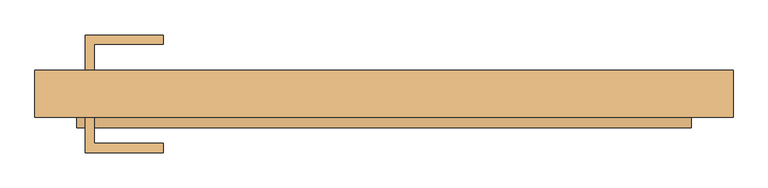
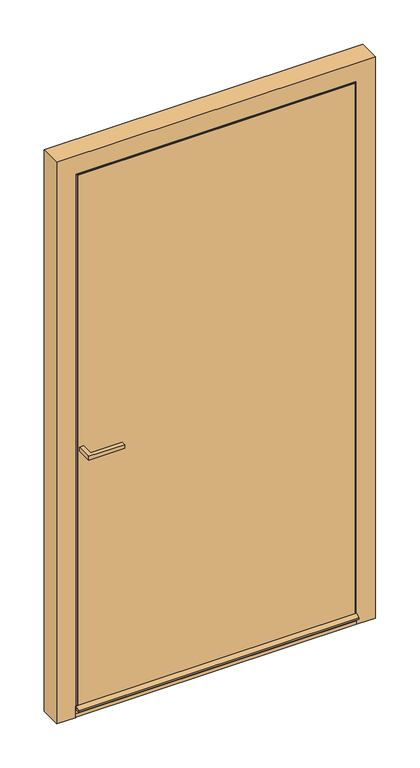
"""IFC4 building model written with IfcOpenShell, lengths in millimetres: door geometry, Reynaers_MasterLine 8_Door_Panel_Outward Opening_Single Vent_Double Sided : Reynaers_MasterLine 8_Door_Panel_Outward Opening_Single Vent_Double Sided."""

import ifcopenshell
import ifcopenshell.guid

model = None  # the IFC model being written
_history = None  # IfcOwnerHistory: only IFC2X3 demands one
_inside = {}  # id of a spatial element -> (the spatial element, [elements in it])
_under = {}  # id of a project, library or spatial element -> (it, [spatial elements below it])
_declared = {}  # id of a project -> (the project, [libraries it declares])
_typed = {}  # id of a type object -> (the type object, [elements of that type])
_made_of = {}  # id of a material, layer set ... -> (it, [elements and type objects made of it])


def new_model(schema):
    """Start an empty IFC model of exactly this schema.

    Asked for "IFC4X3", IfcOpenShell would pick the latest addendum, in which some entities
    have other attributes; the version numbers below select the first issue.
    IFC2X3 requires an IfcOwnerHistory on every rooted entity: one is made here for all.
    """
    global model, _history
    if schema == "IFC4X3":
        model = ifcopenshell.file(schema_version=(4, 3, 0, 0))
    else:
        model = ifcopenshell.file(schema=schema)
    _inside.clear()
    _under.clear()
    _declared.clear()
    _typed.clear()
    _made_of.clear()
    _history = None
    if model.schema == "IFC2X3":
        org = make("IfcOrganization", Name="unknown")
        user = make(
            "IfcPersonAndOrganization",
            ThePerson=make("IfcPerson", FamilyName="unknown"),
            TheOrganization=org,
        )
        app = make(
            "IfcApplication",
            ApplicationDeveloper=org,
            Version="unknown",
            ApplicationFullName="unknown",
            ApplicationIdentifier="unknown",
        )
        _history = make(
            "IfcOwnerHistory",
            OwningUser=user,
            OwningApplication=app,
            ChangeAction="ADDED",
            CreationDate=0,
        )
    return model


def make(cls, **values):
    """One entity of the class cls with the attributes given. An attribute that is None is left unset."""
    return model.create_entity(
        cls, **{name: value for name, value in values.items() if value is not None}
    )


def rooted(cls, **values):
    """An entity with a GlobalId (a new one), such as an element, a storey or a relation."""
    return make(cls, GlobalId=ifcopenshell.guid.new(), OwnerHistory=_history, **values)


def si_unit(unit_type, name, prefix=None):
    """IfcSIUnit, for example si_unit("LENGTHUNIT", "METRE", prefix="MILLI")."""
    return make("IfcSIUnit", UnitType=unit_type, Prefix=prefix, Name=name)


def assignment(units):
    """IfcUnitAssignment: the units of a project."""
    return None if units is None else make("IfcUnitAssignment", Units=units)


def point(xyz):
    """IfcCartesianPoint."""
    return None if xyz is None else make("IfcCartesianPoint", Coordinates=xyz)


def direction(xyz):
    """IfcDirection."""
    return None if xyz is None else make("IfcDirection", DirectionRatios=xyz)


def frame(location, z_axis=None, x_axis=None):
    """IfcAxis2Placement3D, a coordinate frame: its origin and axes. An axis left out is left unset."""
    return make(
        "IfcAxis2Placement3D",
        Location=point(location),
        Axis=direction(z_axis),
        RefDirection=direction(x_axis),
    )


def frame_2d(location, x_axis=None):
    """IfcAxis2Placement2D, a coordinate frame in the plane: its origin and x axis."""
    return make(
        "IfcAxis2Placement2D", Location=point(location), RefDirection=direction(x_axis)
    )


def origin():
    """The frame at (0, 0, 0) with its axes left unset."""
    return frame((0.0, 0.0, 0.0))


def place(relative_to, where):
    """IfcLocalPlacement: puts the frame where relative to a parent placement (None: the world)."""
    return make(
        "IfcLocalPlacement", PlacementRelTo=relative_to, RelativePlacement=where
    )


def context(
    kind, dimensions, precision=None, world=None, true_north=None, identifier=None
):
    """IfcGeometricRepresentationContext, for example the 3D "Model" context."""
    return make(
        "IfcGeometricRepresentationContext",
        ContextIdentifier=identifier,
        ContextType=kind,
        CoordinateSpaceDimension=dimensions,
        Precision=precision,
        WorldCoordinateSystem=world,
        TrueNorth=true_north,
    )


def project(units=None, contexts=None):
    """IfcProject with its units and contexts."""
    return rooted(
        "IfcProject",
        Name="project",
        RepresentationContexts=contexts,
        UnitsInContext=assignment(units),
    )


def spatial(cls, under=None, at=None, **own):
    """A site, building, storey or space (cls), placed at a placement, below another one or the project."""
    s = rooted(cls, ObjectPlacement=at, **own)
    if under is not None:
        _under.setdefault(under.id(), (under, []))[1].append(s)
    return s


def polyline(points):
    """IfcPolyline through the points."""
    return make("IfcPolyline", Points=[point(p) for p in points])


def circle_curve(where, radius):
    """IfcCircle in the frame where."""
    return make("IfcCircle", Position=where, Radius=radius)


def trimmed(basis, trim1, trim2, sense, master):
    """IfcTrimmedCurve: the piece of a basis curve between two trims."""
    return make(
        "IfcTrimmedCurve",
        BasisCurve=basis,
        Trim1=trim1,
        Trim2=trim2,
        SenseAgreement=sense,
        MasterRepresentation=master,
    )


def segment(curve, same_sense, transition):
    """IfcCompositeCurveSegment."""
    return make(
        "IfcCompositeCurveSegment",
        Transition=transition,
        SameSense=same_sense,
        ParentCurve=curve,
    )


def composite_curve(segments, self_intersect=None):
    """IfcCompositeCurve: segments joined end to end."""
    return make("IfcCompositeCurve", Segments=segments, SelfIntersect=self_intersect)


def outline(outer, holes=None, kind="AREA"):
    """IfcArbitraryClosedProfileDef: a profile drawn as a closed curve; with holes, ...WithVoids."""
    if holes is None:
        return make("IfcArbitraryClosedProfileDef", ProfileType=kind, OuterCurve=outer)
    return make(
        "IfcArbitraryProfileDefWithVoids",
        ProfileType=kind,
        OuterCurve=outer,
        InnerCurves=holes,
    )


def extrude(swept, where, along, depth):
    """IfcExtrudedAreaSolid: the profile swept, set in the frame where, extruded along a direction by depth."""
    return make(
        "IfcExtrudedAreaSolid",
        SweptArea=swept,
        Position=where,
        ExtrudedDirection=direction(along),
        Depth=depth,
    )


def faces_of(points, faces, orient=None, outer=None):
    """IfcFace entities. A face is a list of loops; a loop is a list of indices into points, from 0.

    orient and outer hold one flag for each loop. By default every Orientation is true, the
    first loop of a face is its IfcFaceOuterBound and the others are IfcFaceBound.
    """
    made = []
    for i, loops in enumerate(faces):
        bounds = []
        for j, loop in enumerate(loops):
            is_outer = j == 0 if outer is None else outer[i][j]
            bounds.append(
                make(
                    "IfcFaceOuterBound" if is_outer else "IfcFaceBound",
                    Bound=make("IfcPolyLoop", Polygon=[points[k] for k in loop]),
                    Orientation=True if orient is None else orient[i][j],
                )
            )
        made.append(make("IfcFace", Bounds=bounds))
    return made


def faceted_brep(points, faces, orient=None, outer=None, voids=None):
    """IfcFacetedBrep: a solid bounded by flat faces; with voids (closed shells), ...WithVoids."""
    shared = [point(p) for p in points]
    hull = make("IfcClosedShell", CfsFaces=faces_of(shared, faces, orient, outer))
    if voids is None:
        return make("IfcFacetedBrep", Outer=hull)
    return make(
        "IfcFacetedBrepWithVoids",
        Outer=hull,
        Voids=[
            make(cls, CfsFaces=faces_of(shared, fs, o, b)) for cls, fs, o, b in voids
        ],
    )


def shape(context_of_items, identifier, shape_type, items):
    """IfcShapeRepresentation: the items that make up one representation, for example the "Body"."""
    return make(
        "IfcShapeRepresentation",
        ContextOfItems=context_of_items,
        RepresentationIdentifier=identifier,
        RepresentationType=shape_type,
        Items=items,
    )


def source(mapping_origin, context_of_items, identifier, shape_type, items):
    """IfcRepresentationMap: a shape defined once, which mapped items show again and again."""
    return make(
        "IfcRepresentationMap",
        MappingOrigin=mapping_origin,
        MappedRepresentation=shape(context_of_items, identifier, shape_type, items),
    )


def transform(
    local_origin,
    x_axis=None,
    y_axis=None,
    z_axis=None,
    scale=None,
    scale2=None,
    scale3=None,
    uniform=True,
):
    """IfcCartesianTransformationOperator3D, or its non-uniform kind. x_axis, y_axis, z_axis: its Axis1, 2, 3."""
    if uniform:
        return make(
            "IfcCartesianTransformationOperator3D",
            Axis1=direction(x_axis),
            Axis2=direction(y_axis),
            LocalOrigin=point(local_origin),
            Scale=scale,
            Axis3=direction(z_axis),
        )
    return make(
        "IfcCartesianTransformationOperator3DnonUniform",
        Axis1=direction(x_axis),
        Axis2=direction(y_axis),
        LocalOrigin=point(local_origin),
        Scale=scale,
        Axis3=direction(z_axis),
        Scale2=scale2,
        Scale3=scale3,
    )


def mapped(mapping_source, mapping_target):
    """IfcMappedItem: shows the shape of a source again, moved by a transform."""
    return make(
        "IfcMappedItem", MappingSource=mapping_source, MappingTarget=mapping_target
    )


def made_of(thing, what):
    """Note that an element or type object is made of a material, layer set ...; save() writes the relation."""
    if what is not None:
        _made_of.setdefault(what.id(), (what, []))[1].append(thing)
    return thing


def element(
    cls,
    number,
    at=None,
    inside=None,
    cuts=None,
    type_object=None,
    material=None,
    context=None,
    identifier="Body",
    shape_type=None,
    held_by="IfcProductDefinitionShape",
    body=None,
    shapes=None,
    **own,
):
    """One element of the class cls, such as IfcWall. Its Tag is "e" and its number.

    at: its placement. inside: the storey or other place that contains it. cuts: it is an
    opening in that element (IfcRelVoidsElement). A single representation is given by context,
    identifier, shape_type and body (its items); several are given by shapes. held_by: the class
    of the entity that holds the representations. save() writes the other relations.
    """
    e = rooted(cls, Tag="e%d" % number, ObjectPlacement=at, **own)
    if body is not None:
        shapes = [shape(context, identifier, shape_type, body)]
    if shapes is not None:
        e.Representation = make(held_by, Representations=shapes)
    if inside is not None:
        _inside.setdefault(inside.id(), (inside, []))[1].append(e)
    if cuts is not None:
        rooted(
            "IfcRelVoidsElement", RelatingBuildingElement=cuts, RelatedOpeningElement=e
        )
    if type_object is not None:
        _typed.setdefault(type_object.id(), (type_object, []))[1].append(e)
    return made_of(e, material)


def aggregate(whole, parts):
    """IfcRelAggregates: a whole, such as a stair, and the parts it consists of."""
    return rooted("IfcRelAggregates", RelatingObject=whole, RelatedObjects=parts)


def save(model, path):
    """Write the relations noted so far, then the file.

    IfcRelAggregates (storeys below a building ...), IfcRelContainedInSpatialStructure (elements
    in a storey), IfcRelDefinesByType, IfcRelAssociatesMaterial and IfcRelDeclares: one each for
    every whole, place, type object, material and project.
    """
    for whole, parts in _under.values():
        aggregate(whole, parts)
    for where, things in _inside.values():
        rooted(
            "IfcRelContainedInSpatialStructure",
            RelatedElements=things,
            RelatingStructure=where,
        )
    for kind, things in _typed.values():
        rooted("IfcRelDefinesByType", RelatedObjects=things, RelatingType=kind)
    for what, things in _made_of.values():
        rooted("IfcRelAssociatesMaterial", RelatedObjects=things, RelatingMaterial=what)
    for by, libraries in _declared.values():
        rooted("IfcRelDeclares", RelatingContext=by, RelatedDefinitions=libraries)
    model.write(path)


def door_b6b952c1(model_context):
    return source(origin(), model_context, "Body", "SolidModel", [
        extrude(outline(polyline([(-488.0, 42.5), (-488.0, 100.0), (-360.5, 100.0), (-360.5, 85.0), (-473.0, 85.0), (-473.0, 42.5), (-488.0, 42.5)])), frame((0.0, 0.0, 1001.0), z_axis=(0.0, 0.0, 1.0), x_axis=(1.0, 0.0, 0.0)), (0.0, 0.0, 1.0), 15.0),
        extrude(outline(polyline([(-488.0, -34.5), (-473.0, -34.5), (-473.0, -77.0), (-360.5, -77.0), (-360.5, -92.0), (-488.0, -92.0), (-488.0, -34.5)])), frame((0.0, 0.0, 1001.0), z_axis=(0.0, 0.0, 1.0), x_axis=(1.0, 0.0, 0.0)), (0.0, 0.0, 1.0), 15.0),
        extrude(outline(polyline([(-501.5, -34.5), (-501.5, -31.2), (501.5, -31.2), (501.5, -34.5), (-501.5, -34.5)])), frame((0.0, 0.0, 14.5), z_axis=(0.0, 0.0, 1.0), x_axis=(1.0, 0.0, 0.0)), (0.0, 0.0, 1.0), 26.0),
        extrude(outline(polyline([(-501.5, -2.2238331), (501.5, -2.2238331), (501.5, -21.87), (-501.5, -21.87), (-501.5, -2.2238331)])), frame((0.0, 0.0, 5.0004068), z_axis=(0.0, 0.0, 1.0), x_axis=(1.0, 0.0, 0.0)), (0.0, 0.0, 1.0), 24.4995932),
        extrude(outline(composite_curve([segment(polyline([(42.5, 1.9998842), (42.5, 1.0), (-34.5, 1.0), (-34.5, 17.9596181), (-27.4065304, 22.926519)]), True, "CONTINUOUS"), segment(trimmed(circle_curve(frame_2d((-24.3841599, 24.4558578)), 3.3872704), [point((-27.4065304, 22.926519))], [point((-27.5001324, 25.7841333))], False, "CARTESIAN"), True, "CONTINUOUS"), segment(polyline([(-27.5001324, 25.7841333), (-27.5001324, 29.4051372), (-51.5001324, 29.4051372), (-51.5001324, 36.5), (-34.5, 42.6875422), (-34.5, 40.8999645), (-26.0001324, 38.6224319), (-26.0001324, 29.5), (-14.1961389, 29.5), (-14.1961389, 28.4921244), (-15.773313, 28.4921244)]), True, "CONTINUOUS"), segment(trimmed(circle_curve(frame_2d((-15.8167581, 27.8222178)), 0.6713139), [point((-15.773313, 28.4921244))], [point((-15.3128071, 27.3787138))], False, "CARTESIAN"), True, "CONTINUOUS"), segment(trimmed(circle_curve(frame_2d((-10.4144921, 17.5662448)), 10.9671344), [point((-15.3128071, 27.3787138))], [point((-18.722583, 24.7254112))], True, "CARTESIAN"), True, "CONTINUOUS"), segment(trimmed(circle_curve(frame_2d((-26.0528551, 29.6269603)), 8.8180539), [point((-18.722583, 24.7254112))], [point((-23.5150564, 21.1819824))], False, "CARTESIAN"), True, "CONTINUOUS"), segment(trimmed(circle_curve(frame_2d((-24.3841599, 24.4558578)), 3.3872704), [point((-23.5150564, 21.1819824))], [point((-24.8153865, 21.0961488))], False, "CARTESIAN"), True, "CONTINUOUS"), segment(polyline([(-24.8153865, 21.0961488), (-20.5392099, 16.0), (33.5, 16.0), (33.5, 2.4715542), (42.5, 1.9998842)]), True, "CONTINUOUS")], self_intersect=False)), frame((-501.5, 0.0, 0.0), z_axis=(1.0, 0.0, 0.0), x_axis=(0.0, 1.0, 0.0)), (0.0, 0.0, 1.0), 1003.0),
        faceted_brep([(-501.5, -30.7001836, 0.0), (-501.5, -34.5, 0.0), (-570.0, -34.5, 0.0), (-570.0, 42.5, 0.0), (-527.5, 42.5, 0.0), (-527.5, 33.7, 0.0), (-516.5, 33.7, 0.0), (-516.5, -30.7001836, 0.0), (501.5, -30.7001836, 0.0), (516.5, -30.7001836, 0.0), (516.5, 33.7, 0.0), (527.5, 33.7, 0.0), (527.5, 42.5, 0.0), (570.0, 42.5, 0.0), (570.0, -34.5, 0.0), (501.5, -34.5, 0.0), (-501.5, -30.7001836, 2051.5), (-501.5, -34.5, 2051.5), (501.5, -34.5, 2051.5), (570.0, -34.5, 2120.0), (-570.0, -34.5, 2120.0), (-570.0, 42.5, 2120.0), (570.0, 42.5, 2120.0), (527.5, 42.5, 2077.5), (-527.5, 42.5, 2077.5), (-527.5, 33.7, 2077.5), (527.5, 33.7, 2077.5), (516.5, 33.7, 2066.5), (-516.5, 33.7, 2066.5), (-516.5, -30.7001836, 2066.5), (516.5, -30.7001836, 2066.5), (501.5, -30.7001836, 2051.5)], [[[0, 1, 2, 3, 4, 5, 6, 7]], [[8, 9, 10, 11, 12, 13, 14, 15]], [[1, 0, 16, 17]], [[2, 1, 17, 18, 15, 14, 19, 20]], [[3, 2, 20, 21]], [[4, 3, 21, 22, 13, 12, 23, 24]], [[5, 4, 24, 25]], [[6, 5, 25, 26, 11, 10, 27, 28]], [[7, 6, 28, 29]], [[0, 7, 29, 30, 9, 8, 31, 16]], [[17, 16, 31, 18]], [[21, 20, 19, 22]], [[25, 24, 23, 26]], [[29, 28, 27, 30]], [[18, 31, 8, 15]], [[22, 19, 14, 13]], [[26, 23, 12, 11]], [[30, 27, 10, 9]]]),
        faceted_brep([(-444.0, -31.5, 1994.0), (-444.0, 39.5, 1994.0), (444.0, 39.5, 1994.0), (444.0, -31.5, 1994.0), (-495.5, -25.7, 2045.5), (-495.5, -31.5, 2045.5), (495.5, -31.5, 2045.5), (495.5, -25.7, 2045.5), (444.0, 39.5, 88.0), (444.0, -31.5, 88.0), (495.5, -31.5, 36.5), (495.5, -25.7, 36.5), (-444.0, 39.5, 88.0), (-444.0, -31.5, 88.0), (-495.5, -31.5, 36.5), (-495.5, -25.7, 36.5), (-506.5, -25.7, 2056.5), (-506.5, -25.7, 25.5), (506.5, -25.7, 25.5), (506.5, -25.7, 2056.5), (-506.5, 33.7001837, 2056.5), (506.5, 33.7001837, 2056.5), (-495.5, 39.5, 2045.5), (-495.5, 33.7001837, 2045.5), (495.5, 33.7001837, 2045.5), (495.5, 39.5, 2045.5), (506.5, 33.7001837, 25.5), (495.5, 33.7001837, 36.5), (495.5, 39.5, 36.5), (-506.5, 33.7001837, 25.5), (-495.5, 33.7001837, 36.5), (-495.5, 39.5, 36.5)], [[[0, 1, 2, 3]], [[4, 5, 6, 7]], [[3, 2, 8, 9]], [[7, 6, 10, 11]], [[9, 8, 12, 13]], [[11, 10, 14, 15]], [[13, 12, 1, 0]], [[5, 14, 10, 6], [3, 9, 13, 0]], [[15, 14, 5, 4]], [[16, 17, 18, 19], [7, 11, 15, 4]], [[20, 16, 19, 21]], [[22, 23, 24, 25]], [[21, 19, 18, 26]], [[25, 24, 27, 28]], [[26, 18, 17, 29]], [[28, 27, 30, 31]], [[29, 17, 16, 20]], [[21, 26, 29, 20], [23, 30, 27, 24]], [[31, 30, 23, 22]], [[25, 28, 31, 22], [1, 12, 8, 2]]]),
        extrude(outline(polyline([(-439.0, -31.5), (-439.0, 39.5), (439.0, 39.5), (439.0, -31.5), (-439.0, -31.5)])), frame((0.0, 0.0, 97.0), z_axis=(0.0, 0.0, 1.0), x_axis=(1.0, 0.0, 0.0)), (0.0, 0.0, 1.0), 1892.0),
        extrude(outline(polyline([(-521.5, 42.5), (521.5, 42.5), (521.5, 39.5), (-521.5, 39.5), (-521.5, 42.5)])), frame((0.0, 0.0, 10.5), z_axis=(0.0, 0.0, 1.0), x_axis=(1.0, 0.0, 0.0)), (0.0, 0.0, 1.0), 2061.0),
        extrude(outline(polyline([(-495.5, -31.5), (495.5, -31.5), (495.5, -34.5), (-495.5, -34.5), (-495.5, -31.5)])), frame((0.0, 0.0, 36.5), z_axis=(0.0, 0.0, 1.0), x_axis=(1.0, 0.0, 0.0)), (0.0, 0.0, 1.0), 2009.0),
    ])


if __name__ == "__main__":
    model = new_model("IFC4")
    model_context = context("Model", 3, world=origin())
    ifc_project = project(units=[si_unit("LENGTHUNIT", "METRE", prefix="MILLI")], contexts=[model_context])
    site = spatial("IfcSite", under=ifc_project)
    building = spatial("IfcBuilding", under=site)
    placement = place(None, origin())
    door_shape = door_b6b952c1(model_context)
    element("IfcDoor", 1, ObjectType="Reynaers_MasterLine 8_Door_Panel_Outward Opening_Single Vent_Double Sided : Reynaers_MasterLine 8_Door_Panel_Outward Opening_Single Vent_Double Sided", at=placement, inside=building, context=model_context, shape_type="MappedRepresentation", body=[
        mapped(door_shape, transform((0.0, 0.0, 0.0), x_axis=(1.0, 0.0, 0.0), y_axis=(0.0, 1.0, 0.0), z_axis=(0.0, 0.0, 1.0))),
    ])
    save(model, "model.ifc")
